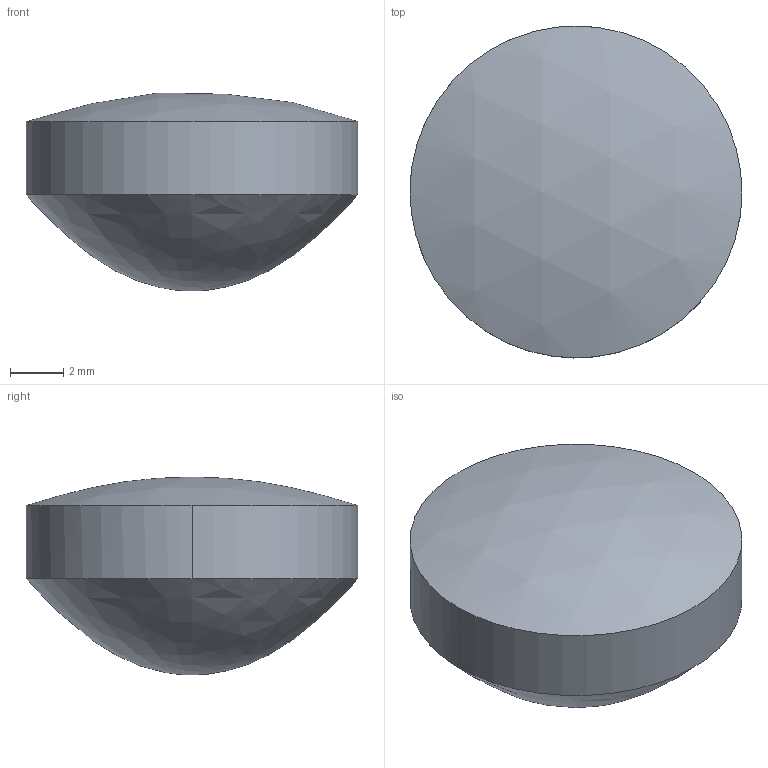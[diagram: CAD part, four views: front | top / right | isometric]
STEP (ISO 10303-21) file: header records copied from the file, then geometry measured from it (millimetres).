
FILE_DESCRIPTION ((), '1');
FILE_NAME ('D:\Applikationen\Optikdesign\StockOptics\Neuentwicklung StockOptics-Designs\AFL Aspheres\AFL12-10 (010717)\ZAS-010717-500-01A Linse AFL12-10_200902_LKI.STP', '2020-09-02T10:18:04', ('Unknown'), ('Unknown'), 'HarmonyWare STEP v2.0.6', 'HarmonyWare Translators', '');
FILE_SCHEMA (('CONFIG_CONTROL_DESIGN'));
Length unit declared in the file: millimetre
Products named in the file (2): NONE
Bounding box: 12.5 x 12.5 x 7.45 mm (x, y, z)
Volume: 630 mm3; surface area: 392.5 mm2
Topology: 1 solids, 1 shells, 4 faces, 18 edges, 24 vertices
Faces by surface type: cylinder 2, bspline 1, sphere 1
Entity records: 470 total; most frequent: CARTESIAN_POINT 191, ORIENTED_EDGE 16, PERSON 16, ORGANIZATION 16, PERSON_AND_ORGANIZATION 16, DIRECTION 15, PERSON_AND_ORGANIZATION_ROLE 10, CC_DESIGN_PERSON_AND_ORGANIZATION_ASSIGNMENT 10
